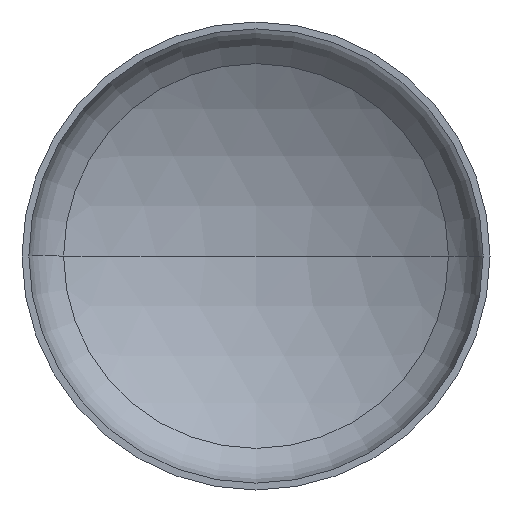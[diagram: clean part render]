
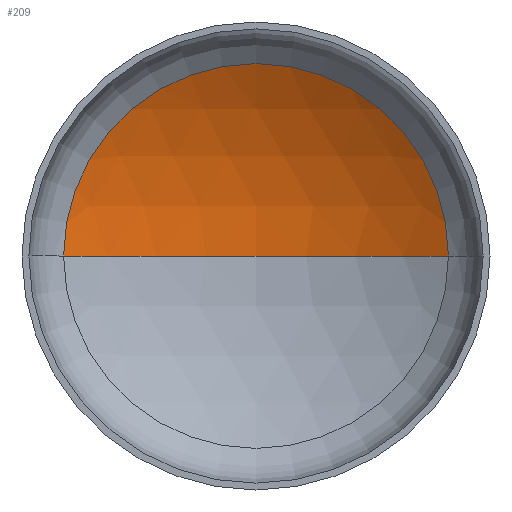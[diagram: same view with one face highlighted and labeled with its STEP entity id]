
A CAD part, front view. The second image highlights one B-rep face of the part: STEP entity #209.
In plain terms, the highlighted spherical face has radius 1520 mm.
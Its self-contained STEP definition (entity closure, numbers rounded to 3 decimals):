
#1 = EDGE_LOOP ( 'NONE', ( #89, #26, #16 ) ) ;
#4 = VERTEX_POINT ( 'NONE', #254 ) ;
#16 = ORIENTED_EDGE ( 'NONE', *, *, #344, .T. ) ;
#18 = AXIS2_PLACEMENT_3D ( 'NONE', #188, #19, #174 ) ;
#19 = DIRECTION ( 'NONE',  ( 0., 0., 1. ) ) ;
#21 = AXIS2_PLACEMENT_3D ( 'NONE', #376, #196, #179 ) ;
#22 = AXIS2_PLACEMENT_3D ( 'NONE', #241, #395, #262 ) ;
#26 = ORIENTED_EDGE ( 'NONE', *, *, #347, .T. ) ;
#41 = AXIS2_PLACEMENT_3D ( 'NONE', #137, #193, #216 ) ;
#77 = VERTEX_POINT ( 'NONE', #370 ) ;
#89 = ORIENTED_EDGE ( 'NONE', *, *, #353, .F. ) ;
#123 = VERTEX_POINT ( 'NONE', #227 ) ;
#137 = CARTESIAN_POINT ( 'NONE',  ( 0., -970.214, 0. ) ) ;
#174 = DIRECTION ( 'NONE',  ( 1., 0., 0. ) ) ;
#179 = DIRECTION ( 'NONE',  ( -1., 0., 0. ) ) ;
#188 = CARTESIAN_POINT ( 'NONE',  ( 0., -970.214, 0. ) ) ;
#193 = DIRECTION ( 'NONE',  ( 0., 0., -1. ) ) ;
#196 = DIRECTION ( 'NONE',  ( 0., 0., -1. ) ) ;
#209 = ADVANCED_FACE ( 'NONE', ( #373 ), #268, .F. ) ;
#216 = DIRECTION ( 'NONE',  ( -1., 0., 0. ) ) ;
#227 = CARTESIAN_POINT ( 'NONE',  ( -781.008, 333.79, 0. ) ) ;
#239 = CIRCLE ( 'NONE', #22, 781.008 ) ;
#241 = CARTESIAN_POINT ( 'NONE',  ( 0., 333.79, 0. ) ) ;
#254 = CARTESIAN_POINT ( 'NONE',  ( 781.008, 333.79, 0. ) ) ;
#262 = DIRECTION ( 'NONE',  ( 1., 0., 0. ) ) ;
#268 = SPHERICAL_SURFACE ( 'NONE', #41, 1520. ) ;
#293 = CIRCLE ( 'NONE', #18, 1520. ) ;
#298 = CIRCLE ( 'NONE', #21, 1520. ) ;
#344 = EDGE_CURVE ( 'NONE', #4, #123, #239, .T. ) ;
#347 = EDGE_CURVE ( 'NONE', #77, #4, #298, .T. ) ;
#353 = EDGE_CURVE ( 'NONE', #77, #123, #293, .T. ) ;
#370 = CARTESIAN_POINT ( 'NONE',  ( 0., 549.786, 0. ) ) ;
#373 = FACE_OUTER_BOUND ( 'NONE', #1, .T. ) ;
#376 = CARTESIAN_POINT ( 'NONE',  ( 0., -970.214, 0. ) ) ;
#395 = DIRECTION ( 'NONE',  ( 0., -1., 0. ) ) ;
